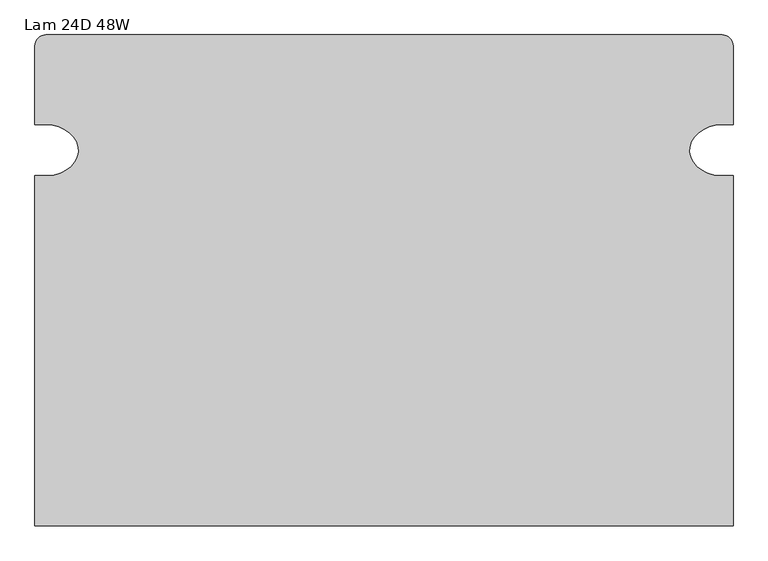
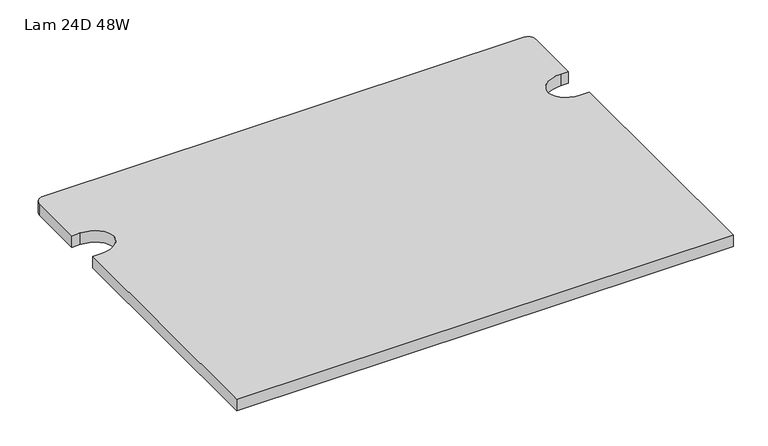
"""IFC4 building model written with IfcOpenShell, lengths in millimetres: furniture geometry, HermanMiller_Ethospace_EWS70_F_Sq-EdgeTransactionWorkSurface_FrameAttached : Lam 24D 48W."""

from ifc_helpers import new_model, si_unit, point, frame, origin, place, context, project, spatial, circle_curve, ellipse_curve, trimmed, source, transform, mapped, element, save
from ifc_brep_helpers import plane_surface, cylinder_surface, extruded_surface, advanced_brep


def lam_24d_48w_d90dfd80(model_context):
    return source(origin(), model_context, "Body", "AdvancedBrep", [
        advanced_brep(
        [(-608.076, 305.3715, 736.6), (-608.076, -304.8, 736.6), (608.076, -304.8, 736.6), (608.076, 305.3715, 736.6), (585.6849176, 305.3715, 736.6), (589.026, 394.1957331, 736.6), (608.076, 394.1957331, 736.6), (608.076, 531.8125, 736.6), (589.026, 550.8625, 736.6), (-589.026, 550.8625, 736.6), (-608.076, 531.8125, 736.6), (-608.076, 394.1957331, 736.6), (-589.026, 394.1957331, 736.6), (-585.6849176, 305.3715, 736.6), (-608.076, 305.3715, 706.7296), (-585.6849176, 305.3715, 706.7296), (-589.026, 394.1957331, 706.7296), (-608.076, 394.1957331, 706.7296), (-608.076, 531.8125, 706.7296), (-589.026, 550.8625, 706.7296), (589.026, 550.8625, 706.7296), (608.076, 531.8125, 706.7296), (608.076, 394.1957331, 706.7296), (589.026, 394.1957331, 706.7296), (585.6849176, 305.3715, 706.7296), (608.076, 305.3715, 706.7296), (608.076, -304.8, 706.7296), (-608.076, -304.8, 706.7296)],
        [
            (0, 1),
            (1, 2),
            (2, 3),
            (3, 4),
            (4, 5, ellipse_curve(frame((589.026, 349.7457392, 736.6), z_axis=(0.0, 0.0, -1.0), x_axis=(1.0, 0.0, 0.0)), 57.2516653, 44.4499939)),
            (5, 6),
            (6, 7),
            (7, 8, circle_curve(frame((589.026, 531.8125, 736.6), z_axis=(0.0, 0.0, 1.0), x_axis=(1.0, 0.0, 0.0)), 19.05)),
            (8, 9),
            (9, 10, circle_curve(frame((-589.026, 531.8125, 736.6), z_axis=(0.0, 0.0, 1.0), x_axis=(1.0, 0.0, 0.0)), 19.05)),
            (10, 11),
            (11, 12),
            (12, 13, ellipse_curve(frame((-589.026, 349.7457392, 736.6), z_axis=(0.0, 0.0, -1.0), x_axis=(1.0, 0.0, 0.0)), 57.2516653, 44.4499939)),
            (13, 0),
            (14, 15),
            (15, 16, ellipse_curve(frame((-589.026, 349.7457392, 706.7296), z_axis=(0.0, 0.0, 1.0), x_axis=(0.0, 1.0, 0.0)), 44.4499939, 57.2516653)),
            (16, 17),
            (17, 18),
            (18, 19, circle_curve(frame((-589.026, 531.8125, 706.7296), z_axis=(0.0, 0.0, -1.0), x_axis=(1.0, 0.0, 0.0)), 19.05)),
            (19, 20),
            (20, 21, circle_curve(frame((589.026, 531.8125, 706.7296), z_axis=(0.0, 0.0, -1.0), x_axis=(1.0, 0.0, 0.0)), 19.05)),
            (21, 22),
            (22, 23),
            (23, 24, ellipse_curve(frame((589.026, 349.7457392, 706.7296), z_axis=(0.0, 0.0, 1.0), x_axis=(0.0, 1.0, 0.0)), 44.4499939, 57.2516653)),
            (24, 25),
            (25, 26),
            (26, 27),
            (27, 14),
            (0, 14),
            (27, 1),
            (26, 2),
            (25, 3),
            (24, 4),
            (23, 5),
            (22, 6),
            (21, 7),
            (20, 8),
            (19, 9),
            (18, 10),
            (17, 11),
            (16, 12),
            (15, 13),
        ],
        [
            plane_surface(frame((-608.076, -304.8, 736.6), z_axis=(0.0, 0.0, 1.0), x_axis=(0.0, -1.0, 0.0))),
            plane_surface(frame((-608.076, -304.8, 706.7296), z_axis=(0.0, 0.0, -1.0), x_axis=(0.0, 1.0, 0.0))),
            plane_surface(frame((-608.076, 305.3715, 736.6), z_axis=(-1.0, 0.0, 0.0), x_axis=(0.0, 0.0, -1.0))),
            plane_surface(frame((-608.076, -304.8, 736.6), z_axis=(0.0, -1.0, 0.0), x_axis=(0.0, 0.0, -1.0))),
            plane_surface(frame((608.076, -304.8, 736.6), z_axis=(1.0, 0.0, 0.0), x_axis=(0.0, 0.0, -1.0))),
            plane_surface(frame((608.076, 305.3715, 736.6), z_axis=(0.0, 1.0, 0.0), x_axis=(0.0, 0.0, -1.0))),
            extruded_surface(trimmed(ellipse_curve(frame((589.026, 349.7457392, 676.8592), z_axis=(0.0, 0.0, -1.0), x_axis=(0.0, 1.0, 0.0)), 44.4499939, 57.2516653), [point((585.6849176, 305.3715, 676.8592))], [point((589.026, 394.1957331, 676.8592))], True, "CARTESIAN"), (0.0, 0.0, 29.870400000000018), 29.870400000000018),
            plane_surface(frame((589.026, 394.1957331, 736.6), z_axis=(0.0, -1.0, 0.0), x_axis=(0.0, 0.0, -1.0))),
            plane_surface(frame((608.076, 394.1957331, 736.6), z_axis=(1.0, 0.0, 0.0), x_axis=(0.0, 0.0, -1.0))),
            cylinder_surface(frame((589.026, 531.8125, 706.7296), z_axis=(0.0, 0.0, 1.0), x_axis=(1.0, 0.0, 0.0)), 19.05),
            plane_surface(frame((589.026, 550.8625, 736.6), z_axis=(0.0, 1.0, 0.0), x_axis=(0.0, 0.0, -1.0))),
            cylinder_surface(frame((-589.026, 531.8125, 706.7296), z_axis=(0.0, 0.0, 1.0), x_axis=(1.0, 0.0, 0.0)), 19.05),
            plane_surface(frame((-608.076, 531.8125, 736.6), z_axis=(-1.0, 0.0, 0.0), x_axis=(0.0, 0.0, -1.0))),
            plane_surface(frame((-608.076, 394.1957331, 736.6), z_axis=(0.0, -1.0, 0.0), x_axis=(0.0, 0.0, -1.0))),
            extruded_surface(trimmed(ellipse_curve(frame((-589.026, 349.7457392, 676.8592), z_axis=(0.0, 0.0, -1.0), x_axis=(0.0, 1.0, 0.0)), 44.4499939, 57.2516653), [point((-589.026, 394.1957331, 676.8592))], [point((-585.6849176, 305.3715, 676.8592))], True, "CARTESIAN"), (0.0, 0.0, 29.870400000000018), 29.870400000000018),
            plane_surface(frame((-585.6849176, 305.3715, 736.6), z_axis=(0.0, 1.0, 0.0), x_axis=(0.0, 0.0, -1.0))),
        ],
        [
            (0, [[1, 2, 3, 4, 5, 6, 7, 8, 9, 10, 11, 12, 13, 14]]),
            (1, [[15, 16, 17, 18, 19, 20, 21, 22, 23, 24, 25, 26, 27, 28]]),
            (2, [[-1, 29, -28, 30]]),
            (3, [[-2, -30, -27, 31]]),
            (4, [[-3, -31, -26, 32]]),
            (5, [[-4, -32, -25, 33]]),
            (6, [[-5, -33, -24, 34]]),
            (7, [[-6, -34, -23, 35]]),
            (8, [[-7, -35, -22, 36]]),
            (9, [[-8, -36, -21, 37]]),
            (10, [[-9, -37, -20, 38]]),
            (11, [[-10, -38, -19, 39]]),
            (12, [[-11, -39, -18, 40]]),
            (13, [[-12, -40, -17, 41]]),
            (14, [[-13, -41, -16, 42]]),
            (15, [[-14, -42, -15, -29]]),
        ],
    ),
    ])


if __name__ == "__main__":
    model = new_model("IFC4")
    model_context = context("Model", 3, world=origin())
    ifc_project = project(units=[si_unit("LENGTHUNIT", "METRE", prefix="MILLI")], contexts=[model_context])
    site = spatial("IfcSite", under=ifc_project)
    building = spatial("IfcBuilding", under=site)
    placement = place(None, origin())
    lam_24d_48w_shape = lam_24d_48w_d90dfd80(model_context)
    element("IfcFurniture", 1, ObjectType="HermanMiller_Ethospace_EWS70_F_Sq-EdgeTransactionWorkSurface_FrameAttached : Lam 24D 48W", at=placement, inside=building, context=model_context, shape_type="MappedRepresentation", body=[
        mapped(lam_24d_48w_shape, transform((0.0, 0.0, 0.0), x_axis=(1.0, 0.0, 0.0), y_axis=(0.0, 1.0, 0.0), z_axis=(0.0, 0.0, 1.0))),
    ])
    save(model, "model.ifc")
